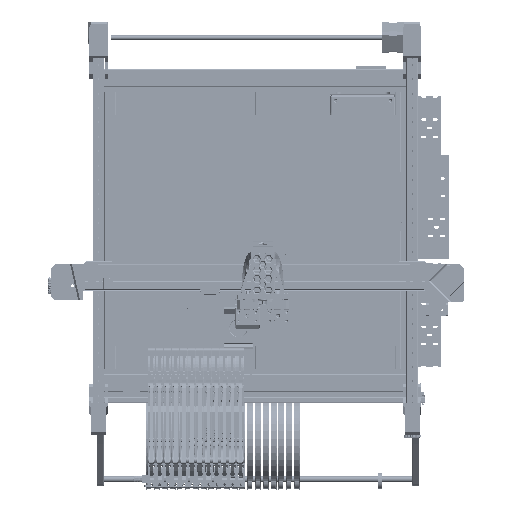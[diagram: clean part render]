
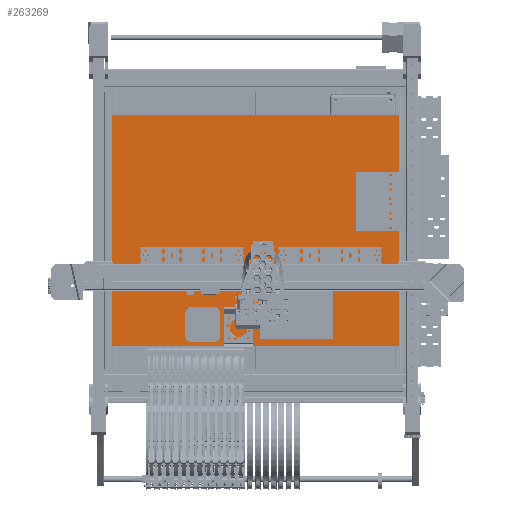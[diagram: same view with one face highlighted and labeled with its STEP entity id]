
A CAD part, top view. The second image highlights one B-rep face of the part: STEP entity #263269.
In plain terms, the highlighted planar face has unit normal (0, 0, 1) as drawn and (0, 1, 0) by its records, which use the part's own axes.
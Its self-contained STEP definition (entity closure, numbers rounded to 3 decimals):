
#4295 = DIRECTION ( 'NONE',  ( 0., 0., -1. ) ) ;
#25699 = CARTESIAN_POINT ( 'NONE',  ( -250., 1., 200. ) ) ;
#33543 = EDGE_CURVE ( 'NONE', #250967, #402239, #241461, .T. ) ;
#45092 = CARTESIAN_POINT ( 'NONE',  ( -250., 1., -200. ) ) ;
#47042 = VECTOR ( 'NONE', #157455, 1000. ) ;
#55313 = VECTOR ( 'NONE', #187312, 1000. ) ;
#78415 = DIRECTION ( 'NONE',  ( -1., 0., 0. ) ) ;
#91346 = ORIENTED_EDGE ( 'NONE', *, *, #247829, .T. ) ;
#94080 = FACE_OUTER_BOUND ( 'NONE', #105431, .T. ) ;
#95849 = PLANE ( 'NONE',  #252761 ) ;
#105061 = VECTOR ( 'NONE', #78415, 1000. ) ;
#105431 = EDGE_LOOP ( 'NONE', ( #111492, #242524, #91346, #270339 ) ) ;
#111492 = ORIENTED_EDGE ( 'NONE', *, *, #33543, .T. ) ;
#122677 = CARTESIAN_POINT ( 'NONE',  ( 250., 1., 200. ) ) ;
#132994 = LINE ( 'NONE', #154056, #55313 ) ;
#136079 = CARTESIAN_POINT ( 'NONE',  ( 250., 1., -200. ) ) ;
#145463 = LINE ( 'NONE', #25699, #47042 ) ;
#154056 = CARTESIAN_POINT ( 'NONE',  ( -250., 1., -200. ) ) ;
#155709 = EDGE_CURVE ( 'NONE', #402239, #353961, #368729, .T. ) ;
#157455 = DIRECTION ( 'NONE',  ( 1., 0., 0. ) ) ;
#187312 = DIRECTION ( 'NONE',  ( 0., 0., 1. ) ) ;
#195650 = DIRECTION ( 'NONE',  ( 0., 0., 1. ) ) ;
#220812 = EDGE_CURVE ( 'NONE', #345852, #250967, #145463, .T. ) ;
#241461 = LINE ( 'NONE', #136079, #406839 ) ;
#242524 = ORIENTED_EDGE ( 'NONE', *, *, #155709, .T. ) ;
#247829 = EDGE_CURVE ( 'NONE', #353961, #345852, #132994, .T. ) ;
#250967 = VERTEX_POINT ( 'NONE', #122677 ) ;
#252761 = AXIS2_PLACEMENT_3D ( 'NONE', #260627, #393555, #195650 ) ;
#260627 = CARTESIAN_POINT ( 'NONE',  ( 0., 1., 0. ) ) ;
#263269 = ADVANCED_FACE ( 'NONE', ( #94080 ), #95849, .T. ) ;
#270339 = ORIENTED_EDGE ( 'NONE', *, *, #220812, .T. ) ;
#345852 = VERTEX_POINT ( 'NONE', #402190 ) ;
#353961 = VERTEX_POINT ( 'NONE', #381512 ) ;
#368729 = LINE ( 'NONE', #45092, #105061 ) ;
#381512 = CARTESIAN_POINT ( 'NONE',  ( -250., 1., -200. ) ) ;
#382894 = CARTESIAN_POINT ( 'NONE',  ( 250., 1., -200. ) ) ;
#393555 = DIRECTION ( 'NONE',  ( 0., 1., 0. ) ) ;
#402190 = CARTESIAN_POINT ( 'NONE',  ( -250., 1., 200. ) ) ;
#402239 = VERTEX_POINT ( 'NONE', #382894 ) ;
#406839 = VECTOR ( 'NONE', #4295, 1000. ) ;
